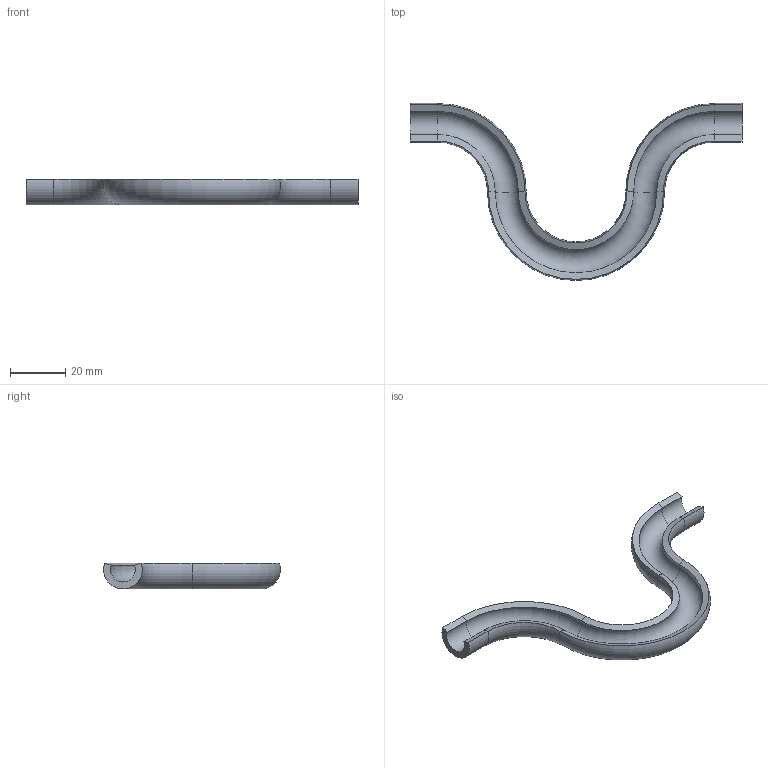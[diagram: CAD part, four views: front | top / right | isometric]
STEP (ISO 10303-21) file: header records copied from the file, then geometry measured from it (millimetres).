
FILE_DESCRIPTION(/* description */ ('STEP AP242 Edition 2','CAx-IF Rec.Pracs.---Representation and Presentation of Product Manufacturing Information (PMI)---4.0---2014-10-13','CAx-IF Rec.Pracs.---3D Tessellated Geometry---0.4---2014-09-14','2;1','CAx-IF Rec.Pracs.---User Defined Attributes---1.5---2016-08-15'),/* implementation_level */ '2;1');
FILE_NAME(/* name */ 'Assembly 1 - Part 14',/* time_stamp */ '2026-10-18T18:48:31Z',/* author */ (''),/* organization */ (''),/* preprocessor_version */ 'ST-DEVELOPER v20',/* originating_system */ 'ONSHAPE BY PTC INC, 1.222',/* authorisation */ ' ');
FILE_SCHEMA (('AP242_MANAGED_MODEL_BASED_3D_ENGINEERING_MIM_LF { 1 0 10303 442 3 1 4 }'));
Length unit declared in the file: metre
Products named in the file (1): Part 14
Bounding box: 120 x 64 x 9.39 mm (x, y, z)
Volume: 9774.1 mm3; surface area: 8815.1 mm2
Topology: 1 solids, 1 shells, 22 faces, 44 edges, 24 vertices
Faces by surface type: plane 6, torus 6, cone 6, cylinder 4
Entity records: 586 total; most frequent: DIRECTION 114, CARTESIAN_POINT 91, ORIENTED_EDGE 88, AXIS2_PLACEMENT_3D 47, EDGE_CURVE 44, VERTEX_POINT 24, CIRCLE 24, EDGE_LOOP 22
